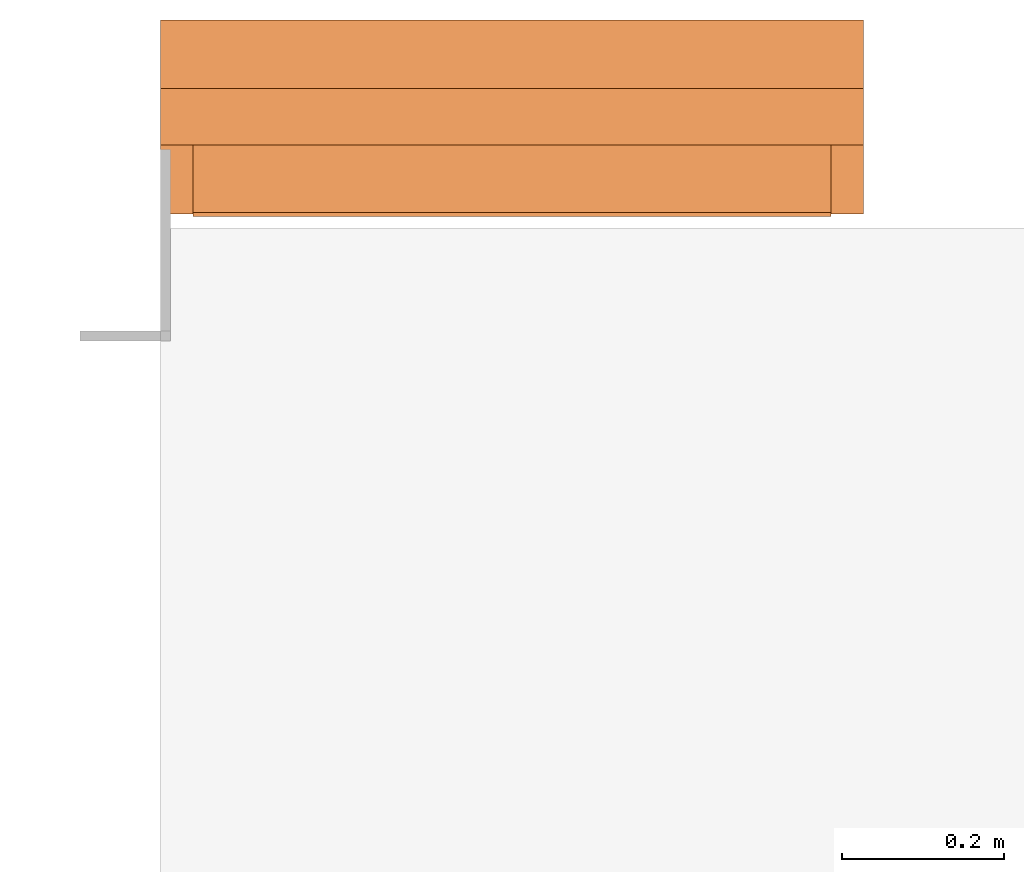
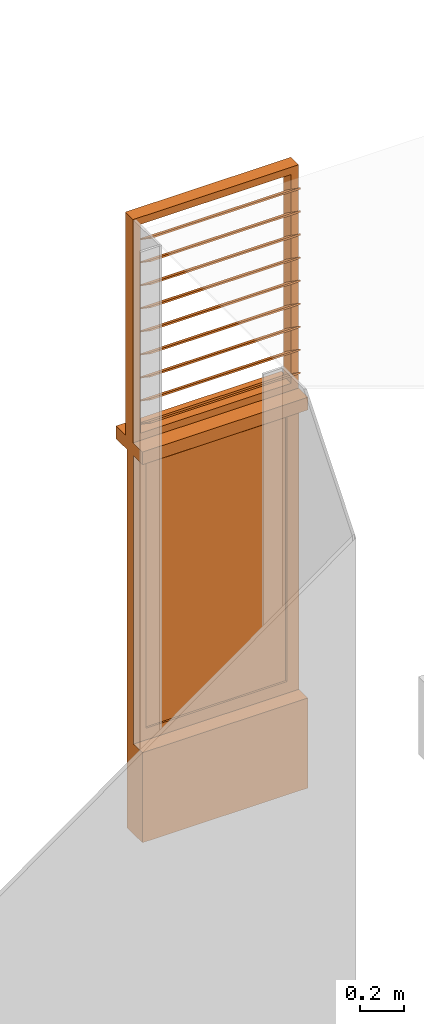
# One storey, part 18 of 18: 1 proxy.
"""IFC2X3 building model written with IfcOpenShell, lengths in metres."""

import ifcopenshell
import ifcopenshell.guid

model = None  # the IFC model being written
_history = None  # IfcOwnerHistory: only IFC2X3 demands one
_inside = {}  # id of a spatial element -> (the spatial element, [elements in it])
_under = {}  # id of a project, library or spatial element -> (it, [spatial elements below it])
_declared = {}  # id of a project -> (the project, [libraries it declares])
_typed = {}  # id of a type object -> (the type object, [elements of that type])
_made_of = {}  # id of a material, layer set ... -> (it, [elements and type objects made of it])


def new_model(schema):
    """Start an empty IFC model of exactly this schema.

    Asked for "IFC4X3", IfcOpenShell would pick the latest addendum, in which some entities
    have other attributes; the version numbers below select the first issue.
    IFC2X3 requires an IfcOwnerHistory on every rooted entity: one is made here for all.
    """
    global model, _history
    if schema == "IFC4X3":
        model = ifcopenshell.file(schema_version=(4, 3, 0, 0))
    else:
        model = ifcopenshell.file(schema=schema)
    _inside.clear()
    _under.clear()
    _declared.clear()
    _typed.clear()
    _made_of.clear()
    _history = None
    if model.schema == "IFC2X3":
        org = make("IfcOrganization", Name="unknown")
        user = make(
            "IfcPersonAndOrganization",
            ThePerson=make("IfcPerson", FamilyName="unknown"),
            TheOrganization=org,
        )
        app = make(
            "IfcApplication",
            ApplicationDeveloper=org,
            Version="unknown",
            ApplicationFullName="unknown",
            ApplicationIdentifier="unknown",
        )
        _history = make(
            "IfcOwnerHistory",
            OwningUser=user,
            OwningApplication=app,
            ChangeAction="ADDED",
            CreationDate=0,
        )
    return model


def make(cls, **values):
    """One entity of the class cls with the attributes given. An attribute that is None is left unset."""
    return model.create_entity(
        cls, **{name: value for name, value in values.items() if value is not None}
    )


def entity(cls, *values):
    """Any entity or typed value of the class cls, its attributes in the order of the schema. None: left unset."""
    e = model.create_entity(cls)
    for i, value in enumerate(values):
        if value is not None:
            e[i] = value
    return e


def rooted(cls, **values):
    """An entity with a GlobalId (a new one), such as an element, a storey or a relation."""
    return make(cls, GlobalId=ifcopenshell.guid.new(), OwnerHistory=_history, **values)


def si_unit(unit_type, name, prefix=None):
    """IfcSIUnit, for example si_unit("LENGTHUNIT", "METRE", prefix="MILLI")."""
    return make("IfcSIUnit", UnitType=unit_type, Prefix=prefix, Name=name)


def converted_unit(unit_type, name, factor, base, dimensions=None, offset=None):
    """IfcConversionBasedUnit, such as the inch: factor (a typed value) times the base unit."""
    return make(
        "IfcConversionBasedUnit"
        if offset is None
        else "IfcConversionBasedUnitWithOffset",
        ConversionOffset=offset,
        Dimensions=None
        if dimensions is None
        else entity("IfcDimensionalExponents", *dimensions),
        UnitType=unit_type,
        Name=name,
        ConversionFactor=make(
            "IfcMeasureWithUnit", ValueComponent=factor, UnitComponent=base
        ),
    )


def derived_unit(unit_type, elements):
    """IfcDerivedUnit: a product of units, each with its exponent."""
    return make(
        "IfcDerivedUnit",
        Elements=[
            make("IfcDerivedUnitElement", Unit=unit, Exponent=power)
            for unit, power in elements
        ],
        UnitType=unit_type,
    )


def assignment(units):
    """IfcUnitAssignment: the units of a project."""
    return None if units is None else make("IfcUnitAssignment", Units=units)


def point(xyz):
    """IfcCartesianPoint."""
    return None if xyz is None else make("IfcCartesianPoint", Coordinates=xyz)


def direction(xyz):
    """IfcDirection."""
    return None if xyz is None else make("IfcDirection", DirectionRatios=xyz)


def frame(location, z_axis=None, x_axis=None):
    """IfcAxis2Placement3D, a coordinate frame: its origin and axes. An axis left out is left unset."""
    return make(
        "IfcAxis2Placement3D",
        Location=point(location),
        Axis=direction(z_axis),
        RefDirection=direction(x_axis),
    )


def origin():
    """The frame at (0, 0, 0) with its axes left unset."""
    return frame((0.0, 0.0, 0.0))


def place(relative_to, where):
    """IfcLocalPlacement: puts the frame where relative to a parent placement (None: the world)."""
    return make(
        "IfcLocalPlacement", PlacementRelTo=relative_to, RelativePlacement=where
    )


def context(
    kind, dimensions, precision=None, world=None, true_north=None, identifier=None
):
    """IfcGeometricRepresentationContext, for example the 3D "Model" context."""
    return make(
        "IfcGeometricRepresentationContext",
        ContextIdentifier=identifier,
        ContextType=kind,
        CoordinateSpaceDimension=dimensions,
        Precision=precision,
        WorldCoordinateSystem=world,
        TrueNorth=true_north,
    )


def subcontext(parent, identifier, kind, view, scale=None):
    """IfcGeometricRepresentationSubContext, for example "Body" below "Model"."""
    return make(
        "IfcGeometricRepresentationSubContext",
        ContextIdentifier=identifier,
        ContextType=kind,
        ParentContext=parent,
        TargetScale=scale,
        TargetView=view,
    )


def project(units=None, contexts=None):
    """IfcProject with its units and contexts."""
    return rooted(
        "IfcProject",
        Name="project",
        RepresentationContexts=contexts,
        UnitsInContext=assignment(units),
    )


def spatial(cls, under=None, at=None, **own):
    """A site, building, storey or space (cls), placed at a placement, below another one or the project."""
    s = rooted(cls, ObjectPlacement=at, **own)
    if under is not None:
        _under.setdefault(under.id(), (under, []))[1].append(s)
    return s


def faces_of(points, faces, orient=None, outer=None):
    """IfcFace entities. A face is a list of loops; a loop is a list of indices into points, from 0.

    orient and outer hold one flag for each loop. By default every Orientation is true, the
    first loop of a face is its IfcFaceOuterBound and the others are IfcFaceBound.
    """
    made = []
    for i, loops in enumerate(faces):
        bounds = []
        for j, loop in enumerate(loops):
            is_outer = j == 0 if outer is None else outer[i][j]
            bounds.append(
                make(
                    "IfcFaceOuterBound" if is_outer else "IfcFaceBound",
                    Bound=make("IfcPolyLoop", Polygon=[points[k] for k in loop]),
                    Orientation=True if orient is None else orient[i][j],
                )
            )
        made.append(make("IfcFace", Bounds=bounds))
    return made


def faceted_brep(points, faces, orient=None, outer=None, voids=None):
    """IfcFacetedBrep: a solid bounded by flat faces; with voids (closed shells), ...WithVoids."""
    shared = [point(p) for p in points]
    hull = make("IfcClosedShell", CfsFaces=faces_of(shared, faces, orient, outer))
    if voids is None:
        return make("IfcFacetedBrep", Outer=hull)
    return make(
        "IfcFacetedBrepWithVoids",
        Outer=hull,
        Voids=[
            make(cls, CfsFaces=faces_of(shared, fs, o, b)) for cls, fs, o, b in voids
        ],
    )


def shape(context_of_items, identifier, shape_type, items):
    """IfcShapeRepresentation: the items that make up one representation, for example the "Body"."""
    return make(
        "IfcShapeRepresentation",
        ContextOfItems=context_of_items,
        RepresentationIdentifier=identifier,
        RepresentationType=shape_type,
        Items=items,
    )


def source(mapping_origin, context_of_items, identifier, shape_type, items):
    """IfcRepresentationMap: a shape defined once, which mapped items show again and again."""
    return make(
        "IfcRepresentationMap",
        MappingOrigin=mapping_origin,
        MappedRepresentation=shape(context_of_items, identifier, shape_type, items),
    )


def transform(
    local_origin,
    x_axis=None,
    y_axis=None,
    z_axis=None,
    scale=None,
    scale2=None,
    scale3=None,
    uniform=True,
):
    """IfcCartesianTransformationOperator3D, or its non-uniform kind. x_axis, y_axis, z_axis: its Axis1, 2, 3."""
    if uniform:
        return make(
            "IfcCartesianTransformationOperator3D",
            Axis1=direction(x_axis),
            Axis2=direction(y_axis),
            LocalOrigin=point(local_origin),
            Scale=scale,
            Axis3=direction(z_axis),
        )
    return make(
        "IfcCartesianTransformationOperator3DnonUniform",
        Axis1=direction(x_axis),
        Axis2=direction(y_axis),
        LocalOrigin=point(local_origin),
        Scale=scale,
        Axis3=direction(z_axis),
        Scale2=scale2,
        Scale3=scale3,
    )


def mapped(mapping_source, mapping_target):
    """IfcMappedItem: shows the shape of a source again, moved by a transform."""
    return make(
        "IfcMappedItem", MappingSource=mapping_source, MappingTarget=mapping_target
    )


def material(Name=None, Category=None):
    """IfcMaterial."""
    return make("IfcMaterial", Name=Name, Category=Category)


def material_list(materials):
    """IfcMaterialList."""
    return make("IfcMaterialList", Materials=materials)


def made_of(thing, what):
    """Note that an element or type object is made of a material, layer set ...; save() writes the relation."""
    if what is not None:
        _made_of.setdefault(what.id(), (what, []))[1].append(thing)
    return thing


def type_object(cls, material=None, **own):
    """A type object (cls), such as IfcWallType, which elements share."""
    return made_of(rooted(cls, **own), material)


def type_shapes(of_type, sources):
    """Give a type object the sources (RepresentationMaps) that its elements show as mapped items."""
    of_type.RepresentationMaps = sources


def element(
    cls,
    number,
    at=None,
    inside=None,
    cuts=None,
    type_object=None,
    material=None,
    context=None,
    identifier="Body",
    shape_type=None,
    held_by="IfcProductDefinitionShape",
    body=None,
    shapes=None,
    **own,
):
    """One element of the class cls, such as IfcWall. Its Tag is "e" and its number.

    at: its placement. inside: the storey or other place that contains it. cuts: it is an
    opening in that element (IfcRelVoidsElement). A single representation is given by context,
    identifier, shape_type and body (its items); several are given by shapes. held_by: the class
    of the entity that holds the representations. save() writes the other relations.
    """
    e = rooted(cls, Tag="e%d" % number, ObjectPlacement=at, **own)
    if body is not None:
        shapes = [shape(context, identifier, shape_type, body)]
    if shapes is not None:
        e.Representation = make(held_by, Representations=shapes)
    if inside is not None:
        _inside.setdefault(inside.id(), (inside, []))[1].append(e)
    if cuts is not None:
        rooted(
            "IfcRelVoidsElement", RelatingBuildingElement=cuts, RelatedOpeningElement=e
        )
    if type_object is not None:
        _typed.setdefault(type_object.id(), (type_object, []))[1].append(e)
    return made_of(e, material)


def aggregate(whole, parts):
    """IfcRelAggregates: a whole, such as a stair, and the parts it consists of."""
    return rooted("IfcRelAggregates", RelatingObject=whole, RelatedObjects=parts)


def save(model, path):
    """Write the relations noted so far, then the file.

    IfcRelAggregates (storeys below a building ...), IfcRelContainedInSpatialStructure (elements
    in a storey), IfcRelDefinesByType, IfcRelAssociatesMaterial and IfcRelDeclares: one each for
    every whole, place, type object, material and project.
    """
    for whole, parts in _under.values():
        aggregate(whole, parts)
    for where, things in _inside.values():
        rooted(
            "IfcRelContainedInSpatialStructure",
            RelatedElements=things,
            RelatingStructure=where,
        )
    for kind, things in _typed.values():
        rooted("IfcRelDefinesByType", RelatedObjects=things, RelatingType=kind)
    for what, things in _made_of.values():
        rooted("IfcRelAssociatesMaterial", RelatedObjects=things, RelatingMaterial=what)
    for by, libraries in _declared.values():
        rooted("IfcRelDeclares", RelatingContext=by, RelatedDefinitions=libraries)
    model.write(path)


model = new_model("IFC2X3")

# Units and contexts
model_context = context("Model", 3, precision=1e-05, world=origin(), true_north=direction((6.12303176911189e-17, 1.0)))
body_context = subcontext(model_context, "Body", "Model", "MODEL_VIEW")
ifc_project = project(units=[si_unit("LENGTHUNIT", "METRE"), si_unit("AREAUNIT", "SQUARE_METRE"), si_unit("VOLUMEUNIT", "CUBIC_METRE"), converted_unit("PLANEANGLEUNIT", "DEGREE", entity("IfcRatioMeasure", 0.0174532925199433), si_unit("PLANEANGLEUNIT", "RADIAN"), dimensions=[0, 0, 0, 0, 0, 0, 0]), si_unit("MASSUNIT", "GRAM", prefix="KILO"), derived_unit("MASSDENSITYUNIT", [(si_unit("MASSUNIT", "GRAM", prefix="KILO"), 1), (si_unit("LENGTHUNIT", "METRE"), -3)]), si_unit("TIMEUNIT", "SECOND"), si_unit("FREQUENCYUNIT", "HERTZ"), si_unit("THERMODYNAMICTEMPERATUREUNIT", "DEGREE_CELSIUS"), derived_unit("THERMALTRANSMITTANCEUNIT", [(si_unit("MASSUNIT", "GRAM", prefix="KILO"), 1), (si_unit("THERMODYNAMICTEMPERATUREUNIT", "KELVIN"), -1), (si_unit("TIMEUNIT", "SECOND"), -3)]), derived_unit("VOLUMETRICFLOWRATEUNIT", [(si_unit("LENGTHUNIT", "METRE"), 3), (si_unit("TIMEUNIT", "SECOND"), -1)]), si_unit("ELECTRICCURRENTUNIT", "AMPERE"), si_unit("ELECTRICVOLTAGEUNIT", "VOLT"), si_unit("POWERUNIT", "WATT"), si_unit("FORCEUNIT", "NEWTON", prefix="KILO"), si_unit("ILLUMINANCEUNIT", "LUX"), si_unit("LUMINOUSFLUXUNIT", "LUMEN"), si_unit("LUMINOUSINTENSITYUNIT", "CANDELA"), derived_unit("USERDEFINED", [(si_unit("MASSUNIT", "GRAM", prefix="KILO"), -1), (si_unit("LENGTHUNIT", "METRE"), -2), (si_unit("TIMEUNIT", "SECOND"), 3), (si_unit("LUMINOUSFLUXUNIT", "LUMEN"), 1)]), derived_unit("LINEARVELOCITYUNIT", [(si_unit("LENGTHUNIT", "METRE"), 1), (si_unit("TIMEUNIT", "SECOND"), -1)]), si_unit("PRESSUREUNIT", "PASCAL"), derived_unit("USERDEFINED", [(si_unit("LENGTHUNIT", "METRE"), -2), (si_unit("MASSUNIT", "GRAM", prefix="KILO"), 1), (si_unit("TIMEUNIT", "SECOND"), -2)])], contexts=[model_context])

# Site, building, storey
site_placement = place(None, origin())
site = spatial("IfcSite", under=ifc_project, at=site_placement, Name="Surface", CompositionType="ELEMENT")
building_placement = place(site_placement, origin())
building = spatial("IfcBuilding", under=site, at=building_placement, Name="ExPREF", CompositionType="ELEMENT")
storey_placement = place(building_placement, frame((0.0, 0.0, -4.62)))
storey = spatial("IfcBuildingStorey", under=building, at=storey_placement, Name="R-1", CompositionType="ELEMENT", Elevation=-4.62)

# Proxy
ifc_material_1 = material(Name="AA-Aluminium")
ifc_material_2 = material(Name="AA-vitrage")
ifc_material_list_1 = material_list([ifc_material_1, ifc_material_2])
ifc_material_list_2 = material_list([ifc_material_1, ifc_material_2])
building_element_proxy_type = type_object("IfcBuildingElementProxyType", Name="R-1 fenetre", PredefinedType="NOTDEFINED", material=ifc_material_list_2)
shared_shape = source(origin(), body_context, "Body", "Brep", [
    faceted_brep([(-0.395000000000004, 0.0139179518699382, 3.33040538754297), (-0.395000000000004, -0.00293437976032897, 3.34220551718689), (-0.395000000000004, 0.00148355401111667, 3.3485149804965), (-0.395000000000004, 0.018335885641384, 3.33671485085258), (0.395000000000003, 0.0139179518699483, 3.33040538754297), (0.395000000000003, 0.018335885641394, 3.33671485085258), (0.395000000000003, 0.00148355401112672, 3.3485149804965), (0.395000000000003, -0.00293437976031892, 3.34220551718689)], [[[0, 1, 2, 3]], [[4, 5, 6, 7]], [[1, 0, 4, 7]], [[2, 1, 7, 6]], [[3, 2, 6, 5]], [[0, 3, 5, 4]]]),
    faceted_brep([(-0.395000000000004, 0.0147209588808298, 3.33155220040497), (-0.395000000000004, 0.017588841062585, 3.33564796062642), (-0.395000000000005, 0.123609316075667, 3.26141162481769), (-0.395000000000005, 0.120741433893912, 3.25731586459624), (0.395000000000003, 0.0147209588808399, 3.33155220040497), (0.395000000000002, 0.120741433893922, 3.25731586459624), (0.395000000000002, 0.123609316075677, 3.26141162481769), (0.395000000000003, 0.0175888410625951, 3.33564796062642)], [[[0, 1, 2, 3]], [[4, 5, 6, 7]], [[1, 0, 4, 7]], [[2, 1, 7, 6]], [[3, 2, 6, 5]], [[0, 3, 5, 4]]]),
    faceted_brep([(-0.395000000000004, 0.0139179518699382, 3.20240538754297), (-0.395000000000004, -0.00293437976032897, 3.21420551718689), (-0.395000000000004, 0.00148355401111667, 3.2205149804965), (-0.395000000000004, 0.018335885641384, 3.20871485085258), (0.395000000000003, 0.0139179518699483, 3.20240538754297), (0.395000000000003, 0.018335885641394, 3.20871485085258), (0.395000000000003, 0.00148355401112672, 3.2205149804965), (0.395000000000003, -0.00293437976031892, 3.21420551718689)], [[[0, 1, 2, 3]], [[4, 5, 6, 7]], [[1, 0, 4, 7]], [[2, 1, 7, 6]], [[3, 2, 6, 5]], [[0, 3, 5, 4]]]),
    faceted_brep([(-0.395000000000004, 0.0147209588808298, 3.20355220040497), (-0.395000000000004, 0.017588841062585, 3.20764796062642), (-0.395000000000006, 0.123609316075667, 3.13341162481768), (-0.395000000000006, 0.120741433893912, 3.12931586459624), (0.395000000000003, 0.0147209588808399, 3.20355220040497), (0.395000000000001, 0.120741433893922, 3.12931586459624), (0.395000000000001, 0.123609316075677, 3.13341162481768), (0.395000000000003, 0.0175888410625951, 3.20764796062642)], [[[0, 1, 2, 3]], [[4, 5, 6, 7]], [[1, 0, 4, 7]], [[2, 1, 7, 6]], [[3, 2, 6, 5]], [[0, 3, 5, 4]]]),
    faceted_brep([(-0.395000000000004, 0.0139179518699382, 3.07440538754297), (-0.395000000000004, -0.00293437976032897, 3.08620551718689), (-0.395000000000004, 0.00148355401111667, 3.0925149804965), (-0.395000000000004, 0.018335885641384, 3.08071485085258), (0.395000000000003, 0.0139179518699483, 3.07440538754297), (0.395000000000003, 0.018335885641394, 3.08071485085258), (0.395000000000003, 0.00148355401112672, 3.0925149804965), (0.395000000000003, -0.00293437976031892, 3.08620551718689)], [[[0, 1, 2, 3]], [[4, 5, 6, 7]], [[1, 0, 4, 7]], [[2, 1, 7, 6]], [[3, 2, 6, 5]], [[0, 3, 5, 4]]]),
    faceted_brep([(-0.395000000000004, 0.0147209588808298, 3.07555220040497), (-0.395000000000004, 0.017588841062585, 3.07964796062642), (-0.395000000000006, 0.123609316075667, 3.00541162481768), (-0.395000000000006, 0.120741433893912, 3.00131586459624), (0.395000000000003, 0.0147209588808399, 3.07555220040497), (0.395000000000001, 0.120741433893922, 3.00131586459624), (0.395000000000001, 0.123609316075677, 3.00541162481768), (0.395000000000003, 0.0175888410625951, 3.07964796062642)], [[[0, 1, 2, 3]], [[4, 5, 6, 7]], [[1, 0, 4, 7]], [[2, 1, 7, 6]], [[3, 2, 6, 5]], [[0, 3, 5, 4]]]),
    faceted_brep([(-0.395000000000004, 0.0139179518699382, 2.94640538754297), (-0.395000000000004, -0.00293437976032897, 2.95820551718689), (-0.395000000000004, 0.00148355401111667, 2.9645149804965), (-0.395000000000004, 0.018335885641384, 2.95271485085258), (0.395000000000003, 0.0139179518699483, 2.94640538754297), (0.395000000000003, 0.018335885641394, 2.95271485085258), (0.395000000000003, 0.00148355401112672, 2.9645149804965), (0.395000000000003, -0.00293437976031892, 2.95820551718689)], [[[0, 1, 2, 3]], [[4, 5, 6, 7]], [[1, 0, 4, 7]], [[2, 1, 7, 6]], [[3, 2, 6, 5]], [[0, 3, 5, 4]]]),
    faceted_brep([(-0.395000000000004, 0.0147209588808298, 2.94755220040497), (-0.395000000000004, 0.017588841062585, 2.95164796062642), (-0.395000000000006, 0.123609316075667, 2.87741162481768), (-0.395000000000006, 0.120741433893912, 2.87331586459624), (0.395000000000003, 0.0147209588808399, 2.94755220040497), (0.395000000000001, 0.120741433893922, 2.87331586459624), (0.395000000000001, 0.123609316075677, 2.87741162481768), (0.395000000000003, 0.0175888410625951, 2.95164796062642)], [[[0, 1, 2, 3]], [[4, 5, 6, 7]], [[1, 0, 4, 7]], [[2, 1, 7, 6]], [[3, 2, 6, 5]], [[0, 3, 5, 4]]]),
    faceted_brep([(-0.395000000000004, 0.0139179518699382, 2.81840538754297), (-0.395000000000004, -0.00293437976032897, 2.83020551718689), (-0.395000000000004, 0.00148355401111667, 2.8365149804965), (-0.395000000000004, 0.018335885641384, 2.82471485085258), (0.395000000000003, 0.0139179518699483, 2.81840538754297), (0.395000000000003, 0.018335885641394, 2.82471485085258), (0.395000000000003, 0.00148355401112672, 2.8365149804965), (0.395000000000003, -0.00293437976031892, 2.83020551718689)], [[[0, 1, 2, 3]], [[4, 5, 6, 7]], [[1, 0, 4, 7]], [[2, 1, 7, 6]], [[3, 2, 6, 5]], [[0, 3, 5, 4]]]),
    faceted_brep([(-0.395000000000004, 0.0147209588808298, 2.81955220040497), (-0.395000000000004, 0.017588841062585, 2.82364796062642), (-0.395000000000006, 0.123609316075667, 2.74941162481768), (-0.395000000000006, 0.120741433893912, 2.74531586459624), (0.395000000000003, 0.0147209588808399, 2.81955220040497), (0.395000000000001, 0.120741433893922, 2.74531586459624), (0.395000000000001, 0.123609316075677, 2.74941162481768), (0.395000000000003, 0.0175888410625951, 2.82364796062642)], [[[0, 1, 2, 3]], [[4, 5, 6, 7]], [[1, 0, 4, 7]], [[2, 1, 7, 6]], [[3, 2, 6, 5]], [[0, 3, 5, 4]]]),
    faceted_brep([(-0.395000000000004, 0.0139179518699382, 2.69040538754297), (-0.395000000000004, -0.00293437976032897, 2.70220551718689), (-0.395000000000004, 0.00148355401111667, 2.7085149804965), (-0.395000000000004, 0.018335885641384, 2.69671485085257), (0.395000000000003, 0.0139179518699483, 2.69040538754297), (0.395000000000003, 0.018335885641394, 2.69671485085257), (0.395000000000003, 0.00148355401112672, 2.7085149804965), (0.395000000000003, -0.00293437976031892, 2.70220551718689)], [[[0, 1, 2, 3]], [[4, 5, 6, 7]], [[1, 0, 4, 7]], [[2, 1, 7, 6]], [[3, 2, 6, 5]], [[0, 3, 5, 4]]]),
    faceted_brep([(-0.395000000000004, 0.0147209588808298, 2.69155220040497), (-0.395000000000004, 0.017588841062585, 2.69564796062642), (-0.395000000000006, 0.123609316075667, 2.62141162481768), (-0.395000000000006, 0.120741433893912, 2.61731586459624), (0.395000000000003, 0.0147209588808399, 2.69155220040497), (0.395000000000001, 0.120741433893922, 2.61731586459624), (0.395000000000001, 0.123609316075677, 2.62141162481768), (0.395000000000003, 0.0175888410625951, 2.69564796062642)], [[[0, 1, 2, 3]], [[4, 5, 6, 7]], [[1, 0, 4, 7]], [[2, 1, 7, 6]], [[3, 2, 6, 5]], [[0, 3, 5, 4]]]),
    faceted_brep([(-0.395000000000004, 0.0139179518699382, 2.56240538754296), (-0.395000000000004, -0.00293437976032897, 2.57420551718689), (-0.395000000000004, 0.00148355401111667, 2.5805149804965), (-0.395000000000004, 0.018335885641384, 2.56871485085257), (0.395000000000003, 0.0139179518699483, 2.56240538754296), (0.395000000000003, 0.018335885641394, 2.56871485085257), (0.395000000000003, 0.00148355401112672, 2.5805149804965), (0.395000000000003, -0.00293437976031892, 2.57420551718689)], [[[0, 1, 2, 3]], [[4, 5, 6, 7]], [[1, 0, 4, 7]], [[2, 1, 7, 6]], [[3, 2, 6, 5]], [[0, 3, 5, 4]]]),
    faceted_brep([(-0.395000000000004, 0.0147209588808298, 2.56355220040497), (-0.395000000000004, 0.017588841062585, 2.56764796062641), (-0.395000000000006, 0.123609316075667, 2.49341162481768), (-0.395000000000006, 0.120741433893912, 2.48931586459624), (0.395000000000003, 0.0147209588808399, 2.56355220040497), (0.395000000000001, 0.120741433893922, 2.48931586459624), (0.395000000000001, 0.123609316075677, 2.49341162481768), (0.395000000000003, 0.0175888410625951, 2.56764796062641)], [[[0, 1, 2, 3]], [[4, 5, 6, 7]], [[1, 0, 4, 7]], [[2, 1, 7, 6]], [[3, 2, 6, 5]], [[0, 3, 5, 4]]]),
    faceted_brep([(-0.395000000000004, 0.0139179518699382, 2.43440538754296), (-0.395000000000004, -0.00293437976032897, 2.44620551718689), (-0.395000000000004, 0.00148355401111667, 2.4525149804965), (-0.395000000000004, 0.018335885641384, 2.44071485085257), (0.395000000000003, 0.0139179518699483, 2.43440538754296), (0.395000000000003, 0.018335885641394, 2.44071485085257), (0.395000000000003, 0.00148355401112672, 2.4525149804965), (0.395000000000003, -0.00293437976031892, 2.44620551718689)], [[[0, 1, 2, 3]], [[4, 5, 6, 7]], [[1, 0, 4, 7]], [[2, 1, 7, 6]], [[3, 2, 6, 5]], [[0, 3, 5, 4]]]),
    faceted_brep([(-0.395000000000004, 0.0147209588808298, 2.43555220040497), (-0.395000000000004, 0.017588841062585, 2.43964796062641), (-0.395000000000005, 0.123609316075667, 2.36541162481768), (-0.395000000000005, 0.120741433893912, 2.36131586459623), (0.395000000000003, 0.0147209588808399, 2.43555220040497), (0.395000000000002, 0.120741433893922, 2.36131586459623), (0.395000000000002, 0.123609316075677, 2.36541162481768), (0.395000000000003, 0.0175888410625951, 2.43964796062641)], [[[0, 1, 2, 3]], [[4, 5, 6, 7]], [[1, 0, 4, 7]], [[2, 1, 7, 6]], [[3, 2, 6, 5]], [[0, 3, 5, 4]]]),
    faceted_brep([(-0.395000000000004, 0.0139179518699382, 2.30640538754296), (-0.395000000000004, -0.00293437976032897, 2.31820551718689), (-0.395000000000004, 0.00148355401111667, 2.3245149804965), (-0.395000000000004, 0.018335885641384, 2.31271485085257), (0.395000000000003, 0.0139179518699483, 2.30640538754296), (0.395000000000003, 0.018335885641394, 2.31271485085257), (0.395000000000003, 0.00148355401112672, 2.3245149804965), (0.395000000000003, -0.00293437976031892, 2.31820551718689)], [[[0, 1, 2, 3]], [[4, 5, 6, 7]], [[1, 0, 4, 7]], [[2, 1, 7, 6]], [[3, 2, 6, 5]], [[0, 3, 5, 4]]]),
    faceted_brep([(-0.395000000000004, 0.0147209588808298, 2.30755220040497), (-0.395000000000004, 0.017588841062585, 2.31164796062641), (-0.395000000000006, 0.123609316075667, 2.23741162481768), (-0.395000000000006, 0.120741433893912, 2.23331586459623), (0.395000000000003, 0.0147209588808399, 2.30755220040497), (0.395000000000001, 0.120741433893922, 2.23331586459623), (0.395000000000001, 0.123609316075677, 2.23741162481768), (0.395000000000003, 0.0175888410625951, 2.31164796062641)], [[[0, 1, 2, 3]], [[4, 5, 6, 7]], [[1, 0, 4, 7]], [[2, 1, 7, 6]], [[3, 2, 6, 5]], [[0, 3, 5, 4]]]),
    faceted_brep([(0.370000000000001, 0.0900000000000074, 2.035), (-0.370000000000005, 0.0900000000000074, 2.035), (-0.370000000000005, 0.0900000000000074, 0.565000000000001), (0.37, 0.0900000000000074, 0.565000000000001), (0.37, 0.110000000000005, 2.035), (0.37, 0.110000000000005, 0.565000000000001), (-0.370000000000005, 0.110000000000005, 0.565000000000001), (-0.370000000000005, 0.110000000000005, 2.035)], [[[0, 1, 2, 3]], [[4, 5, 6, 7]], [[0, 4, 7, 1]], [[1, 7, 6, 2]], [[2, 6, 5, 3]], [[3, 5, 4, 0]]]),
    faceted_brep([(0.400000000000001, 0.0800000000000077, 2.065), (0.400000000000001, 0.0800000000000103, 0.535), (0.400000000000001, 0.120000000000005, 0.535), (0.400000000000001, 0.120000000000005, 2.065), (0.37, 0.120000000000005, 2.035), (0.37, 0.120000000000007, 0.565000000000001), (0.37, 0.0800000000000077, 0.565000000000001), (0.37, 0.0800000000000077, 2.035), (-0.400000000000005, 0.0800000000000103, 0.535), (-0.400000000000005, 0.120000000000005, 0.535), (-0.370000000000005, 0.120000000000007, 0.565000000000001), (-0.370000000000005, 0.0800000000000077, 0.565000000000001), (-0.400000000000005, 0.0800000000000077, 2.065), (-0.400000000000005, 0.120000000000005, 2.065), (-0.370000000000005, 0.120000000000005, 2.035), (-0.370000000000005, 0.0800000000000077, 2.035)], [[[0, 1, 2, 3]], [[4, 5, 6, 7]], [[1, 8, 9, 2]], [[5, 10, 11, 6]], [[8, 12, 13, 9]], [[10, 14, 15, 11]], [[3, 2, 9, 13], [5, 4, 14, 10]], [[12, 0, 3, 13]], [[1, 0, 12, 8], [7, 6, 11, 15]], [[14, 4, 7, 15]]]),
    faceted_brep([(0.434999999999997, 0.140000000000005, 0.500000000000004), (0.434999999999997, 0.139999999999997, 2.09999999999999), (0.434999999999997, 0.080000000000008, 2.09999999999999), (0.434999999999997, 0.080000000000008, 0.500000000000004), (0.385, 0.120000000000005, 0.550000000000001), (0.385, 0.119999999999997, 2.05), (0.385, 0.140000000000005, 2.05), (0.385, 0.140000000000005, 0.550000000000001), (0.4, 0.0800000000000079, 0.535000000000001), (0.4, 0.08, 2.065), (0.4, 0.120000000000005, 2.065), (0.4, 0.120000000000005, 0.535000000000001), (-0.435000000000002, 0.139999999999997, 2.09999999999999), (-0.435000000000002, 0.080000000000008, 2.09999999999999), (-0.385000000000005, 0.119999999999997, 2.05), (-0.385000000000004, 0.140000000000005, 2.05), (-0.400000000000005, 0.08, 2.065), (-0.400000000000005, 0.120000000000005, 2.065), (-0.435000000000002, 0.140000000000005, 0.500000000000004), (-0.435000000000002, 0.080000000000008, 0.500000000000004), (-0.385000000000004, 0.120000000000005, 0.550000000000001), (-0.385000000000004, 0.140000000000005, 0.550000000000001), (-0.400000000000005, 0.0800000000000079, 0.535), (-0.400000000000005, 0.120000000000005, 0.535)], [[[0, 1, 2, 3]], [[4, 5, 6, 7]], [[8, 9, 10, 11]], [[1, 12, 13, 2]], [[5, 14, 15, 6]], [[9, 16, 17, 10]], [[12, 18, 19, 13]], [[14, 20, 21, 15]], [[16, 22, 23, 17]], [[3, 2, 13, 19], [9, 8, 22, 16]], [[18, 0, 3, 19]], [[1, 0, 18, 12], [7, 6, 15, 21]], [[20, 4, 7, 21]], [[5, 4, 20, 14], [11, 10, 17, 23]], [[22, 8, 11, 23]]], outer=[[True], [True], [True], [True], [True], [True], [True], [True], [True], [True, False], [True], [True, False], [True], [False, True], [True]]),
    faceted_brep([(-0.435000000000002, 0.155, 2.16999999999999), (-0.435000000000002, 0.155, 3.41), (0.435000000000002, 0.155, 3.41), (0.435000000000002, 0.155, 2.16999999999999), (-0.395000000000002, 0.155, 2.20999999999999), (0.395000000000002, 0.155, 2.20999999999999), (0.395000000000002, 0.155, 3.37), (-0.395000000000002, 0.155, 3.37), (-0.395000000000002, 0.085000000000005, 2.20999999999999), (-0.395000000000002, 0.085000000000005, 3.37), (0.395000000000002, 0.085000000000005, 3.37), (0.395000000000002, 0.085000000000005, 2.20999999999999), (-0.435000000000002, 0.085000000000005, 2.16999999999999), (0.435000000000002, 0.085000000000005, 2.16999999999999), (0.435000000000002, 0.085000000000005, 3.41), (-0.435000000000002, 0.085000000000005, 3.41)], [[[0, 1, 2, 3], [4, 5, 6, 7]], [[8, 9, 10, 11], [12, 13, 14, 15]], [[3, 13, 12, 0]], [[2, 14, 13, 3]], [[5, 11, 10, 6]], [[4, 8, 11, 5]], [[1, 15, 14, 2]], [[0, 12, 15, 1]], [[7, 9, 8, 4]], [[6, 10, 9, 7]]], outer=[[True, False], [False, True], [True], [True], [True], [True], [True], [True], [True], [True]]),
    faceted_brep([(0.435000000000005, 0.140000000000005, 0.0), (-0.435000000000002, 0.140000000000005, 0.0), (-0.435000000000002, 0.140000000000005, 0.500000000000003), (0.435000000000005, 0.140000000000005, 0.500000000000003), (0.435000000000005, 0.0, 0.0), (0.435000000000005, 0.0, 0.500000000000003), (-0.435000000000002, 0.0, 0.500000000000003), (-0.435000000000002, 0.0, 0.0)], [[[0, 1, 2, 3]], [[4, 5, 6, 7]], [[3, 5, 4, 0]], [[2, 6, 5, 3]], [[1, 7, 6, 2]], [[0, 4, 7, 1]]]),
    faceted_brep([(0.435000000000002, 0.24, 2.09999999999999), (-0.435000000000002, 0.24, 2.1), (-0.435000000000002, 0.24, 2.17), (0.435000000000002, 0.24, 2.16999999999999), (0.435000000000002, 0.0, 2.09999999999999), (0.435000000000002, 0.0, 2.16999999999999), (-0.435000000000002, 0.0, 2.17), (-0.435000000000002, 0.0, 2.1)], [[[0, 1, 2, 3]], [[4, 5, 6, 7]], [[3, 5, 4, 0]], [[1, 7, 6, 2]], [[0, 4, 7, 1]], [[2, 6, 5, 3]]]),
])
type_shapes(building_element_proxy_type, [shared_shape])
proxy_placement = place(storey_placement, frame((48.384743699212, -185.196488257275, 0.0)))
element("IfcBuildingElementProxy", 1, at=proxy_placement, inside=storey, type_object=building_element_proxy_type, material=ifc_material_list_1, Name="R-1 fenetre:R-1 fenetre", ObjectType="R-1 fenetre", context=body_context, shape_type="MappedRepresentation", body=[
    mapped(shared_shape, transform((0.0, 0.0, 0.0), scale=1.0)),
])

save(model, "model.ifc")
